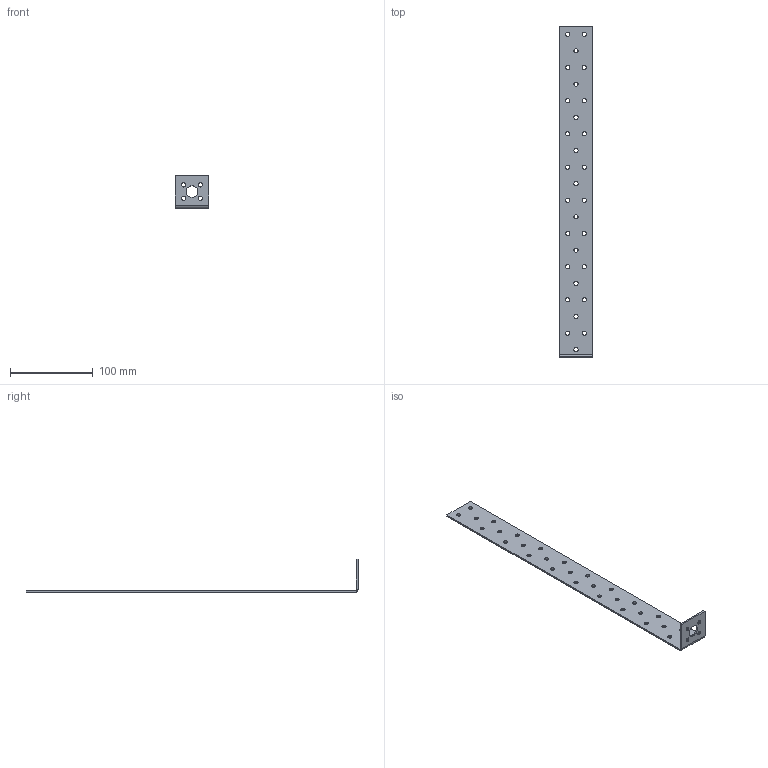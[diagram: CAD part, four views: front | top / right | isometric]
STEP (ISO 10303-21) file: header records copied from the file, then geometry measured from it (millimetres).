
FILE_DESCRIPTION (( 'STEP AP203' ), '1' );
FILE_NAME ('542.STEP', '2020-02-10T15:15:14', ( '' ), ( '' ), 'SwSTEP 2.0', 'SolidWorks 2013', '' );
FILE_SCHEMA (( 'CONFIG_CONTROL_DESIGN' ));
Length unit declared in the file: millimetre
Products named in the file (1): 542
Bounding box: 40 x 400 x 40 mm (x, y, z)
Volume: 33293.9 mm3; surface area: 36356.9 mm2
Topology: 1 solids, 1 shells, 80 faces, 234 edges, 156 vertices
Faces by surface type: cylinder 72, plane 8
Entity records: 2959 total; most frequent: DIRECTION 540, CARTESIAN_POINT 471, ORIENTED_EDGE 468, EDGE_CURVE 234, AXIS2_PLACEMENT_3D 225, VERTEX_POINT 156, EDGE_LOOP 150, CIRCLE 144
